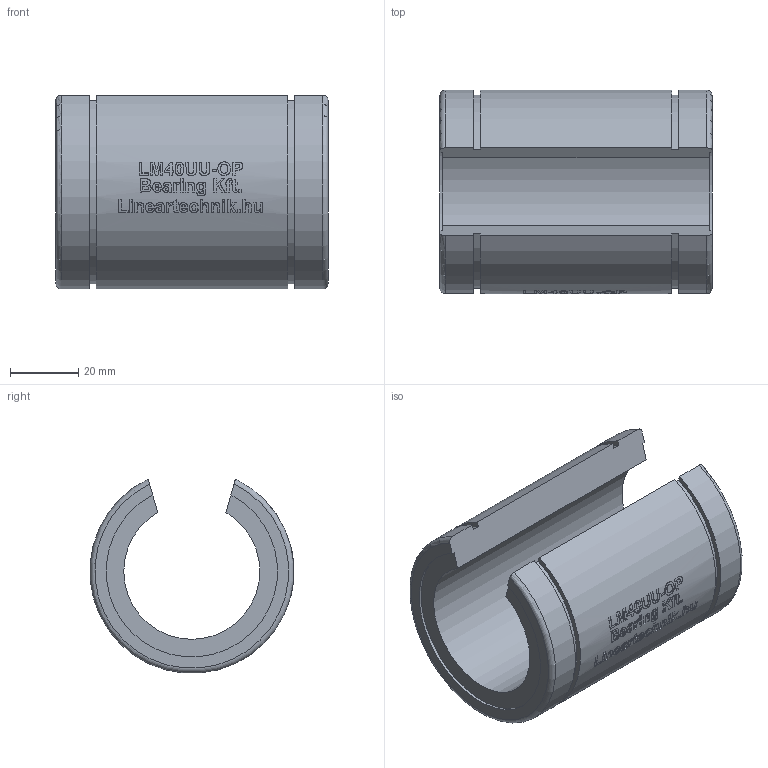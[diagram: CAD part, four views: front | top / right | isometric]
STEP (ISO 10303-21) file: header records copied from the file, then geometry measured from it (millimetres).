
FILE_DESCRIPTION(/* description */ (''),/* implementation_level */ '2;1');
FILE_NAME(/* name */ 'LM40UU-OP',/* time_stamp */ '2019-07-10T16:11:41+02:00',/* author */ ('VĂ©gh MĂˇtĂ©'),/* organization */ ('Bearing Kft'),/* preprocessor_version */ 'ST-DEVELOPER v16.7',/* originating_system */ 'DEX',/* authorisation */ $);
FILE_SCHEMA (('AUTOMOTIVE_DESIGN {1 0 10303 214 3 1 1}'));
Length unit declared in the file: millimetre
Products named in the file (1): LM40UU-OP
Bounding box: 80 x 59.9 x 57 mm (x, y, z)
Volume: 104501.9 mm3; surface area: 26398.5 mm2
Topology: 1 solids, 1 shells, 332 faces, 838 edges, 559 vertices
Faces by surface type: plane 177, bspline 94, cylinder 59, torus 2
Entity records: 18411 total; most frequent: CARTESIAN_POINT 10886, ORIENTED_EDGE 1666, DIRECTION 1284, EDGE_CURVE 833, VERTEX_POINT 559, LINE 468, VECTOR 468, AXIS2_PLACEMENT_3D 408
